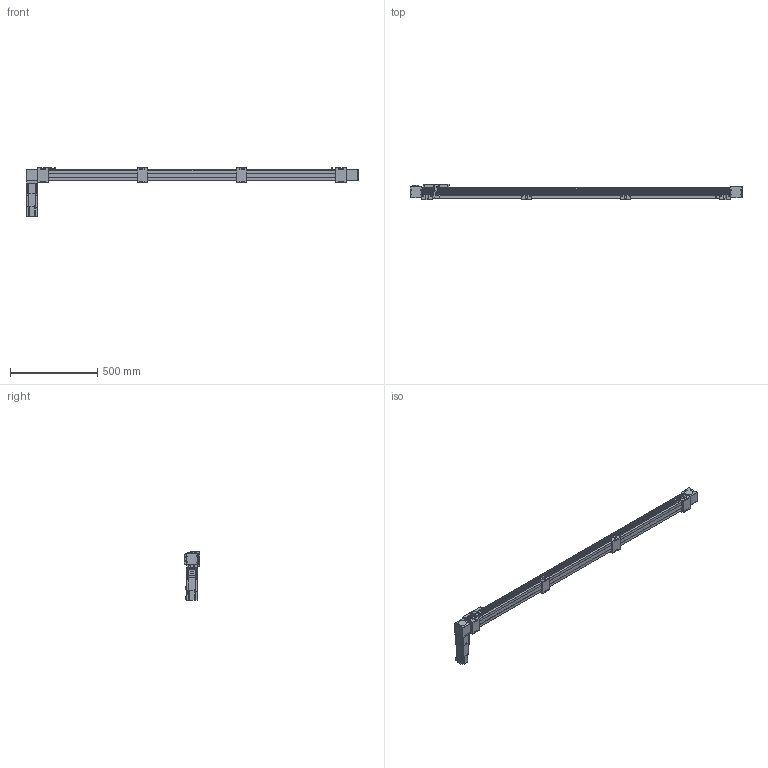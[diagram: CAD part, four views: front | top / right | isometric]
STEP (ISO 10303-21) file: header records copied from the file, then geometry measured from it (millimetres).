
FILE_DESCRIPTION(/* description */ ('STEP AP203'),/* implementation_level */ '2;1');
FILE_NAME(/* name */ 'SK60-P13-S1600-BR-T40-C1-N(0)',/* time_stamp */ '2023-04-06T04:00:14+02:00',/* author */ ('License CC BY-ND 4.0'),/* organization */ ('CADENAS'),/* preprocessor_version */ 'ST-DEVELOPER v19.3',/* originating_system */ 'PARTsolutions',/* authorisation */ ' ');
FILE_SCHEMA (('CONFIG_CONTROL_DESIGN'));
Length unit declared in the file: millimetre
Products named in the file (11): SK60-P13-S1600-BR-T40-C1-N(0); PSC140-sensor; SK60-S450_seat; SK60-S450-BL-C1_slider; SK60_body3; SK60_body6; SK60-BL_body2; T40-p1; SK60_body5; SK60_body4; SK60-S1600-BR-C1_body
Assembly tree (19 placements, depth 2):
  SK60-P13-S1600-BR-T40-C1-N(0)
    PSC140-sensor  x3
    SK60-S450_seat  x4
    SK60-S450-BL-C1_slider
    SK60_body3  x3
    SK60_body6  x2
    SK60-BL_body2  x2
    T40-p1
    SK60_body5
    SK60_body4
    SK60-S1600-BR-C1_body
Bounding box: 1900 x 90 x 279.1 mm (x, y, z)
Volume: 7083441.7 mm3; surface area: 908046.2 mm2
Topology: 19 solids, 23 shells, 922 faces, 2305 edges, 1522 vertices
Faces by surface type: plane 592, cylinder 298, cone 30, torus 2
Full cylindrical faces by diameter (mm): 2.8 x3, 3.3 x4, 4.2 x8, 4.5 x26, 4.6 x3, 4.917 x24, 5 x2, 5.478 x4, 5.5 x27, 6.5 x8, 8 x4, 8.5 x4, 9.988 x4, 10 x16, 13.556 x1, 14 x1, 14.586 x1, 19.692 x1, 38.432 x2, 43 x1, 44 x3, 47 x2, 50 x2
Entity records: 19387 total; most frequent: DIRECTION 3296, CARTESIAN_POINT 3291, ORIENTED_EDGE 3050, EDGE_CURVE 1525, AXIS2_PLACEMENT_3D 1102, LINE 1092, VECTOR 1092, VERTEX_POINT 1077
